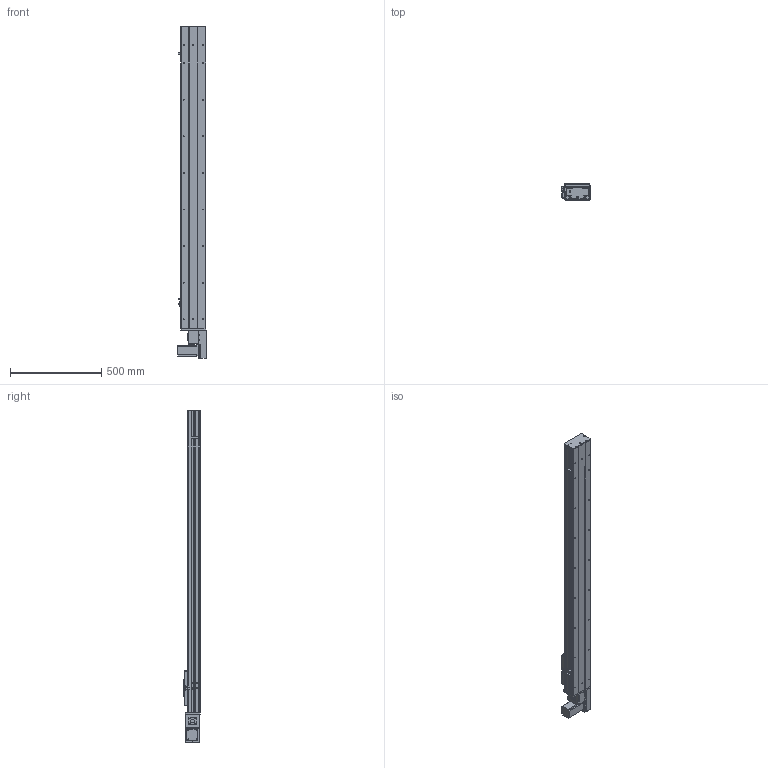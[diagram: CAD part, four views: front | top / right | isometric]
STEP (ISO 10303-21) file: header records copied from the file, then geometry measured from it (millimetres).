
FILE_DESCRIPTION (( 'STEP AP203' ), '1' );
FILE_NAME ('Y135CB-D90-S1350-BL-P400W.STEP', '2020-02-17T09:14:06', ( '微软用户' ), ( '微软中国' ), 'SwSTEP 2.0', 'SolidWorks 2017', '' );
FILE_SCHEMA (( 'CONFIG_CONTROL_DESIGN' ));
Length unit declared in the file: millimetre
Products named in the file (18): Y135CB-D90-S1350-BL-P400W; Y10B--々湍喘謫眊--666; 5CB --掛极耜裔啣-; Y10B-耜蚾蟀諉啣----; C-詩湍揤踡え-陔; Y俋欶BR----; 135CB--詩湍-CE; 0B-埴倛裔啣; Y100-135俋离換覜ん--; 0B-源倛裔啣; Y135C-陔俋离換覜結え-; 0B-萇儂楊擘啣; Y135CB-耜裔; 5C--俋欶; san松下电机400不带刹车----; 135CB---遴掛极.-; C-雄赽釱--; 35CB---喘謫眊楊擘啣
Assembly tree (21 placements, depth 2):
  Y135CB-D90-S1350-BL-P400W
    Y135CB-耜裔
    135CB---遴掛极.-
    35CB---喘謫眊楊擘啣
    Y10B--々湍喘謫眊--666
    Y10B-耜蚾蟀諉啣----
    Y俋欶BR----
    0B-埴倛裔啣
    0B-源倛裔啣
    0B-萇儂楊擘啣
    san松下电机400不带刹车----
    5CB --掛极耜裔啣-  x2
    C-詩湍揤踡え-陔  x2
    135CB--詩湍-CE
    Y100-135俋离換覜ん--  x3
    Y135C-陔俋离換覜結え-
    5C--俋欶
    C-雄赽釱--
Bounding box: 157.5 x 91 x 1814.5 mm (x, y, z)
Volume: 5296164.3 mm3; surface area: 2082234.2 mm2
Topology: 21 solids, 21 shells, 953 faces, 2563 edges, 1698 vertices
Faces by surface type: cylinder 479, plane 458, cone 16
Entity records: 29745 total; most frequent: DIRECTION 4939, CARTESIAN_POINT 4900, ORIENTED_EDGE 4602, EDGE_CURVE 2301, AXIS2_PLACEMENT_3D 1801, VERTEX_POINT 1526, VECTOR 1337, LINE 1337
